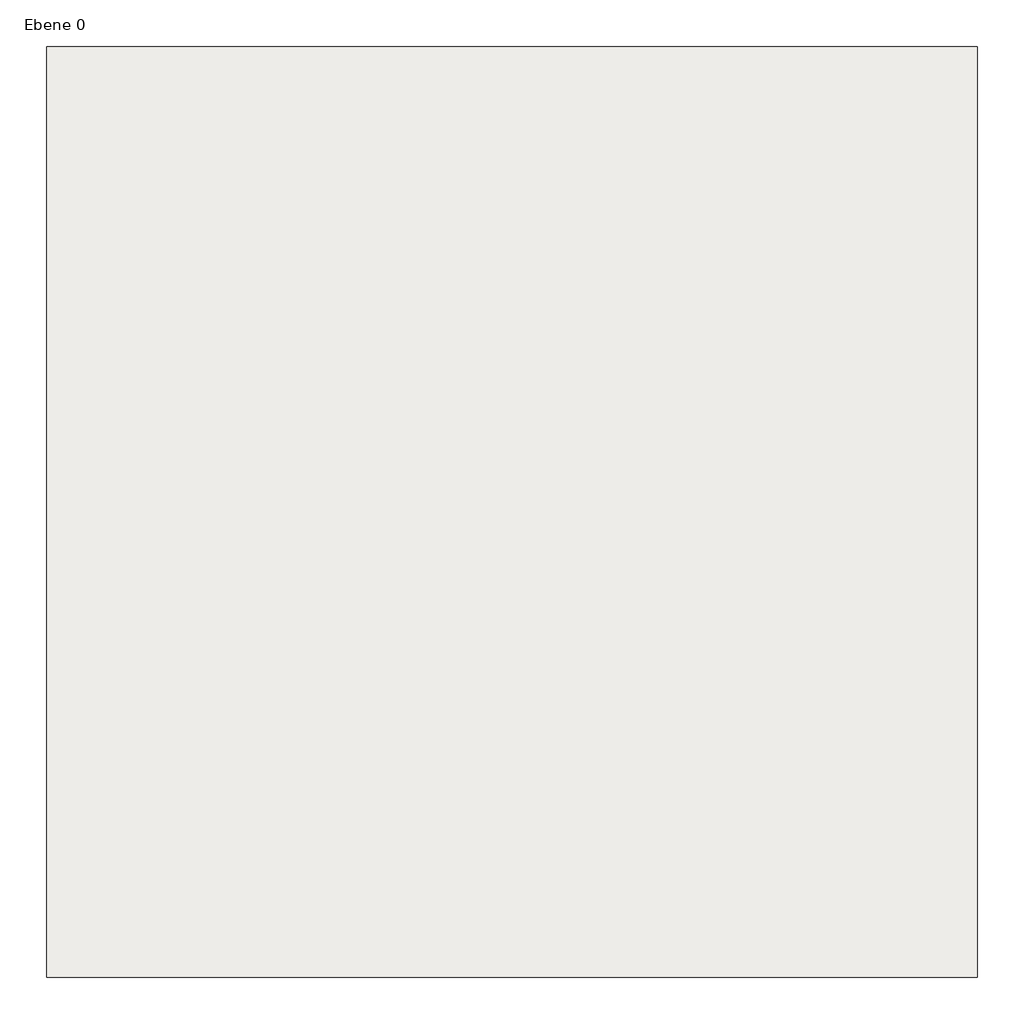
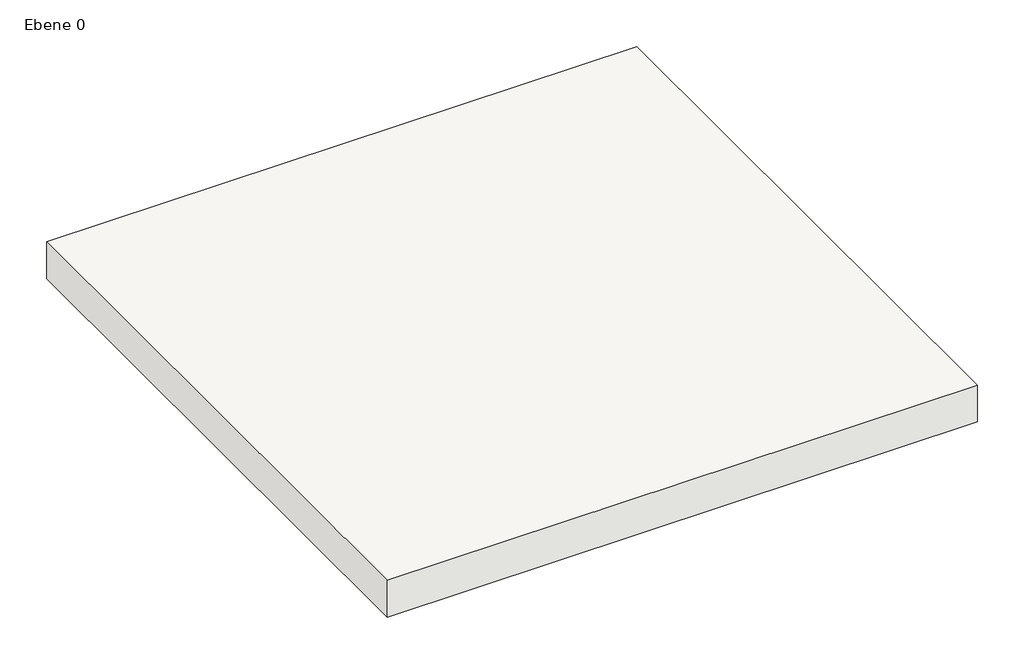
# One storey: 1 slab.
"""IFC4 building model written with IfcOpenShell, lengths in millimetres."""

import ifcopenshell
import ifcopenshell.guid

model = None  # the IFC model being written
_history = None  # IfcOwnerHistory: only IFC2X3 demands one
_inside = {}  # id of a spatial element -> (the spatial element, [elements in it])
_under = {}  # id of a project, library or spatial element -> (it, [spatial elements below it])
_declared = {}  # id of a project -> (the project, [libraries it declares])
_typed = {}  # id of a type object -> (the type object, [elements of that type])
_made_of = {}  # id of a material, layer set ... -> (it, [elements and type objects made of it])


def new_model(schema):
    """Start an empty IFC model of exactly this schema.

    Asked for "IFC4X3", IfcOpenShell would pick the latest addendum, in which some entities
    have other attributes; the version numbers below select the first issue.
    IFC2X3 requires an IfcOwnerHistory on every rooted entity: one is made here for all.
    """
    global model, _history
    if schema == "IFC4X3":
        model = ifcopenshell.file(schema_version=(4, 3, 0, 0))
    else:
        model = ifcopenshell.file(schema=schema)
    _inside.clear()
    _under.clear()
    _declared.clear()
    _typed.clear()
    _made_of.clear()
    _history = None
    if model.schema == "IFC2X3":
        org = make("IfcOrganization", Name="unknown")
        user = make(
            "IfcPersonAndOrganization",
            ThePerson=make("IfcPerson", FamilyName="unknown"),
            TheOrganization=org,
        )
        app = make(
            "IfcApplication",
            ApplicationDeveloper=org,
            Version="unknown",
            ApplicationFullName="unknown",
            ApplicationIdentifier="unknown",
        )
        _history = make(
            "IfcOwnerHistory",
            OwningUser=user,
            OwningApplication=app,
            ChangeAction="ADDED",
            CreationDate=0,
        )
    return model


def make(cls, **values):
    """One entity of the class cls with the attributes given. An attribute that is None is left unset."""
    return model.create_entity(
        cls, **{name: value for name, value in values.items() if value is not None}
    )


def rooted(cls, **values):
    """An entity with a GlobalId (a new one), such as an element, a storey or a relation."""
    return make(cls, GlobalId=ifcopenshell.guid.new(), OwnerHistory=_history, **values)


def si_unit(unit_type, name, prefix=None):
    """IfcSIUnit, for example si_unit("LENGTHUNIT", "METRE", prefix="MILLI")."""
    return make("IfcSIUnit", UnitType=unit_type, Prefix=prefix, Name=name)


def assignment(units):
    """IfcUnitAssignment: the units of a project."""
    return None if units is None else make("IfcUnitAssignment", Units=units)


def point(xyz):
    """IfcCartesianPoint."""
    return None if xyz is None else make("IfcCartesianPoint", Coordinates=xyz)


def direction(xyz):
    """IfcDirection."""
    return None if xyz is None else make("IfcDirection", DirectionRatios=xyz)


def frame(location, z_axis=None, x_axis=None):
    """IfcAxis2Placement3D, a coordinate frame: its origin and axes. An axis left out is left unset."""
    return make(
        "IfcAxis2Placement3D",
        Location=point(location),
        Axis=direction(z_axis),
        RefDirection=direction(x_axis),
    )


def origin():
    """The frame at (0, 0, 0) with its axes left unset."""
    return frame((0.0, 0.0, 0.0))


def place(relative_to, where):
    """IfcLocalPlacement: puts the frame where relative to a parent placement (None: the world)."""
    return make(
        "IfcLocalPlacement", PlacementRelTo=relative_to, RelativePlacement=where
    )


def context(
    kind, dimensions, precision=None, world=None, true_north=None, identifier=None
):
    """IfcGeometricRepresentationContext, for example the 3D "Model" context."""
    return make(
        "IfcGeometricRepresentationContext",
        ContextIdentifier=identifier,
        ContextType=kind,
        CoordinateSpaceDimension=dimensions,
        Precision=precision,
        WorldCoordinateSystem=world,
        TrueNorth=true_north,
    )


def project(units=None, contexts=None):
    """IfcProject with its units and contexts."""
    return rooted(
        "IfcProject",
        Name="project",
        RepresentationContexts=contexts,
        UnitsInContext=assignment(units),
    )


def spatial(cls, under=None, at=None, **own):
    """A site, building, storey or space (cls), placed at a placement, below another one or the project."""
    s = rooted(cls, ObjectPlacement=at, **own)
    if under is not None:
        _under.setdefault(under.id(), (under, []))[1].append(s)
    return s


def polyline(points):
    """IfcPolyline through the points."""
    return make("IfcPolyline", Points=[point(p) for p in points])


def outline(outer, holes=None, kind="AREA"):
    """IfcArbitraryClosedProfileDef: a profile drawn as a closed curve; with holes, ...WithVoids."""
    if holes is None:
        return make("IfcArbitraryClosedProfileDef", ProfileType=kind, OuterCurve=outer)
    return make(
        "IfcArbitraryProfileDefWithVoids",
        ProfileType=kind,
        OuterCurve=outer,
        InnerCurves=holes,
    )


def extrude(swept, where, along, depth):
    """IfcExtrudedAreaSolid: the profile swept, set in the frame where, extruded along a direction by depth."""
    return make(
        "IfcExtrudedAreaSolid",
        SweptArea=swept,
        Position=where,
        ExtrudedDirection=direction(along),
        Depth=depth,
    )


def shape(context_of_items, identifier, shape_type, items):
    """IfcShapeRepresentation: the items that make up one representation, for example the "Body"."""
    return make(
        "IfcShapeRepresentation",
        ContextOfItems=context_of_items,
        RepresentationIdentifier=identifier,
        RepresentationType=shape_type,
        Items=items,
    )


def made_of(thing, what):
    """Note that an element or type object is made of a material, layer set ...; save() writes the relation."""
    if what is not None:
        _made_of.setdefault(what.id(), (what, []))[1].append(thing)
    return thing


def element(
    cls,
    number,
    at=None,
    inside=None,
    cuts=None,
    type_object=None,
    material=None,
    context=None,
    identifier="Body",
    shape_type=None,
    held_by="IfcProductDefinitionShape",
    body=None,
    shapes=None,
    **own,
):
    """One element of the class cls, such as IfcWall. Its Tag is "e" and its number.

    at: its placement. inside: the storey or other place that contains it. cuts: it is an
    opening in that element (IfcRelVoidsElement). A single representation is given by context,
    identifier, shape_type and body (its items); several are given by shapes. held_by: the class
    of the entity that holds the representations. save() writes the other relations.
    """
    e = rooted(cls, Tag="e%d" % number, ObjectPlacement=at, **own)
    if body is not None:
        shapes = [shape(context, identifier, shape_type, body)]
    if shapes is not None:
        e.Representation = make(held_by, Representations=shapes)
    if inside is not None:
        _inside.setdefault(inside.id(), (inside, []))[1].append(e)
    if cuts is not None:
        rooted(
            "IfcRelVoidsElement", RelatingBuildingElement=cuts, RelatedOpeningElement=e
        )
    if type_object is not None:
        _typed.setdefault(type_object.id(), (type_object, []))[1].append(e)
    return made_of(e, material)


def aggregate(whole, parts):
    """IfcRelAggregates: a whole, such as a stair, and the parts it consists of."""
    return rooted("IfcRelAggregates", RelatingObject=whole, RelatedObjects=parts)


def save(model, path):
    """Write the relations noted so far, then the file.

    IfcRelAggregates (storeys below a building ...), IfcRelContainedInSpatialStructure (elements
    in a storey), IfcRelDefinesByType, IfcRelAssociatesMaterial and IfcRelDeclares: one each for
    every whole, place, type object, material and project.
    """
    for whole, parts in _under.values():
        aggregate(whole, parts)
    for where, things in _inside.values():
        rooted(
            "IfcRelContainedInSpatialStructure",
            RelatedElements=things,
            RelatingStructure=where,
        )
    for kind, things in _typed.values():
        rooted("IfcRelDefinesByType", RelatedObjects=things, RelatingType=kind)
    for what, things in _made_of.values():
        rooted("IfcRelAssociatesMaterial", RelatedObjects=things, RelatingMaterial=what)
    for by, libraries in _declared.values():
        rooted("IfcRelDeclares", RelatingContext=by, RelatedDefinitions=libraries)
    model.write(path)


model = new_model("IFC4")

# Units and contexts
model_context = context("Model", 3, world=origin())
ifc_project = project(units=[si_unit("LENGTHUNIT", "METRE", prefix="MILLI")], contexts=[model_context])

# Site, building, storey
site = spatial("IfcSite", under=ifc_project)
building = spatial("IfcBuilding", under=site)
storey = spatial("IfcBuildingStorey", under=building, Name="Ebene 0", Elevation=0.0)

# Slab
placement = place(None, origin())
element("IfcSlab", 1, ObjectType="STB 20.0 Trapezblech", at=placement, inside=storey, context=model_context, shape_type="SweptSolid", body=[
    extrude(outline(polyline([(18087.0731221, 9126.0343533), (18087.0731221, 6078.0343533), (15039.0731221, 6078.0343533), (15039.0731221, 9126.0343533), (18087.0731221, 9126.0343533)])), frame((0.0, 0.0, -200.0), z_axis=(0.0, 0.0, 1.0), x_axis=(1.0, 0.0, 0.0)), (0.0, 0.0, 1.0), 200.0),
])

save(model, "model.ifc")
